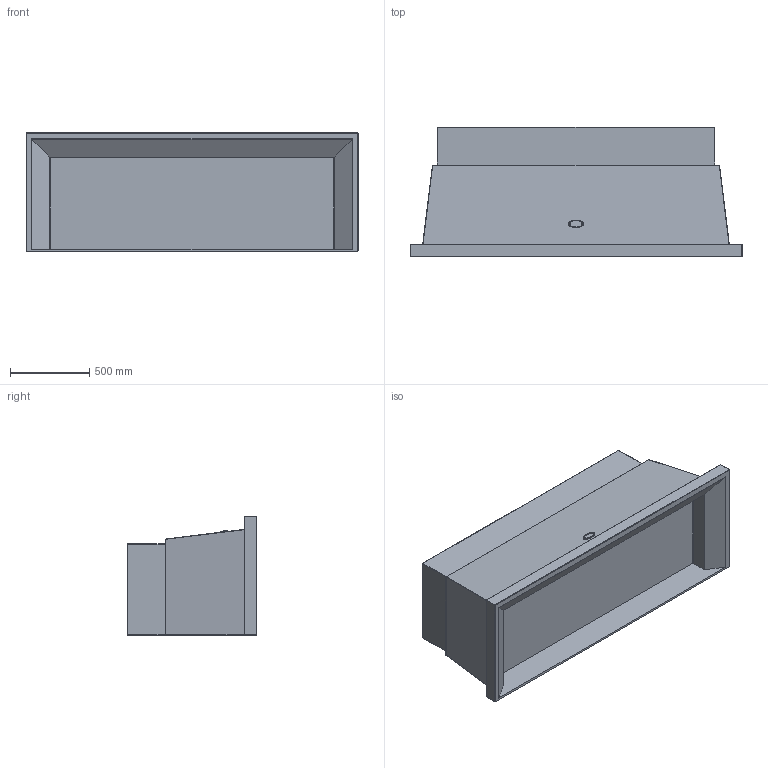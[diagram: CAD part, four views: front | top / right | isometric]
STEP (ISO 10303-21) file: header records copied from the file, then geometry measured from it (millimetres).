
FILE_DESCRIPTION((''),'2;1');
FILE_NAME('EXPORT_LHM2100_ASM','2020-10-27T09:43:46',('r.avril'),(''),'CREO PARAMETRIC BY PTC INC, 2017260','CREO PARAMETRIC BY PTC INC, 2017260','');
FILE_SCHEMA(('AP203_CONFIGURATION_CONTROLLED_3D_DESIGN_OF_MECHANICAL_PARTS_AND_ASSEMBLIES_MIM_LF { 1 0 10303 403 2 1 2 }'));
Length unit declared in the file: millimetre
Products named in the file (7): EXPORT_LHM2100; 65650001; 65049009; 65049009_GRAVURE; 65049009_ASM; 6531792; EXPORT_LHM2100_ASM
Assembly tree (7 placements, depth 3):
  EXPORT_LHM2100_ASM
    EXPORT_LHM2100
    65650001
    65049009_ASM
      65049009
      65049009_GRAVURE
    6531792  x2
Bounding box: 2100 x 820 x 750 mm (x, y, z)
Volume: 546771303.6 mm3; surface area: 8011762.7 mm2
Topology: 5 solids, 7 shells, 149 faces, 331 edges, 196 vertices
Faces by surface type: cylinder 60, plane 49, cone 14, sphere 12, bspline 10, torus 2, extrusion 2
Entity records: 8137 total; most frequent: CARTESIAN_POINT 2888, DIRECTION 725, ORIENTED_EDGE 594, EDGE_CURVE 299, AXIS2_PLACEMENT_3D 275, PROPERTY_DEFINITION 270, REPRESENTATION 265, PROPERTY_DEFINITION_REPRESENTATION 265
